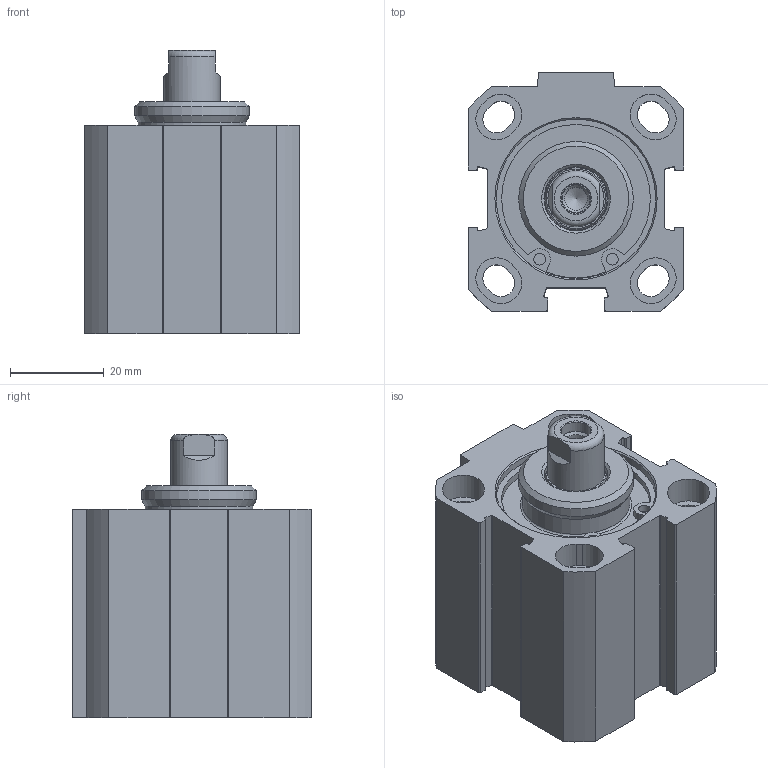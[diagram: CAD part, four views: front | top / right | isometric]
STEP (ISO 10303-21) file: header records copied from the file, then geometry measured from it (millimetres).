
FILE_DESCRIPTION(/* description */ ('Unknown'),/* implementation_level */ '2;1');
FILE_NAME(/* name */ 'FENV 32_5',/* time_stamp */ '2026-05-12T07:11:30+02:00',/* author */ ('Unknown'),/* organization */ ('Unknown'),/* preprocessor_version */ 'ST-DEVELOPER v18.102',/* originating_system */ 'Solid Edge',/* authorisation */ 'Unknown');
FILE_SCHEMA (('AUTOMOTIVE_DESIGN {1 0 10303 214 3 1 1}'));
Length unit declared in the file: millimetre
Products named in the file (5): FENV 32_5; Kolbenstange; Profilrohr; Kit_1; Kit_2
Assembly tree (4 placements, depth 2):
  FENV 32_5
    Kolbenstange
    Profilrohr
    Kit_1
    Kit_2
Bounding box: 46 x 51 x 60.5 mm (x, y, z)
Volume: 76960.8 mm3; surface area: 33145.6 mm2
Topology: 4 solids, 5 shells, 241 faces, 583 edges, 375 vertices
Faces by surface type: plane 107, cylinder 93, cone 31, torus 10
Full cylindrical faces by diameter (mm): 1.6 x2, 2.5 x4, 4.917 x2, 6.25 x1, 8.566 x4, 12 x2, 12.54 x1, 13.7 x1, 14 x1, 16.32 x1, 16.5 x1, 23 x2, 24.5 x1, 32 x2, 33.7 x4, 34.1 x2, 35.8 x2
Entity records: 8441 total; most frequent: CARTESIAN_POINT 1201, DIRECTION 1200, ORIENTED_EDGE 982, EDGE_CURVE 491, AXIS2_PLACEMENT_3D 469, VERTEX_POINT 358, FACE_BOUND 357, EDGE_LOOP 356
